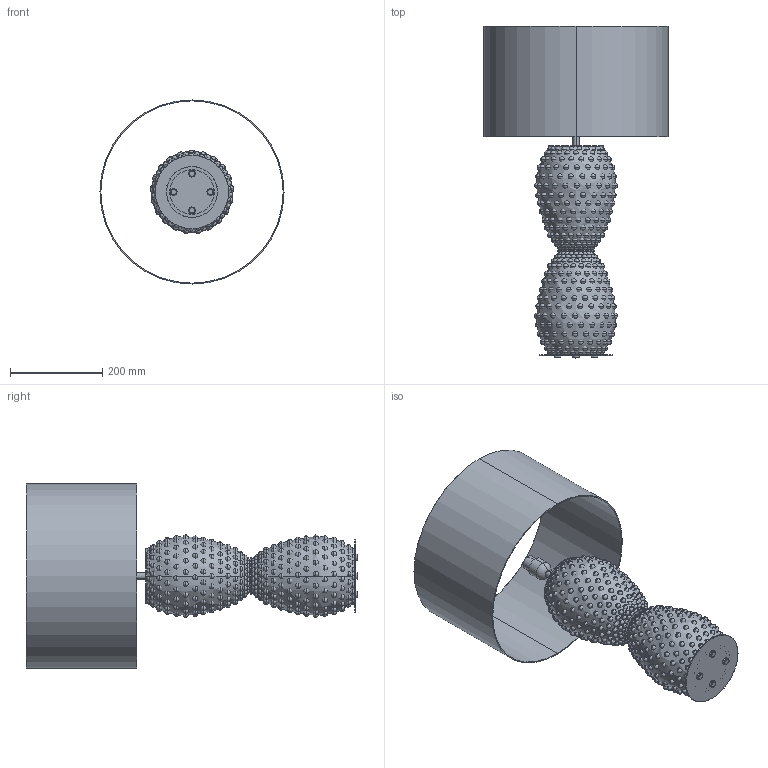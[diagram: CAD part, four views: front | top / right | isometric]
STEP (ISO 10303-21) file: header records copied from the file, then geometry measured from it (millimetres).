
FILE_DESCRIPTION (( 'STEP AP214' ), '1' );
FILE_NAME ('NAC135_2_A_CACTUS.STEP', '2024-02-05T11:52:51', ( '' ), ( '' ), 'SwSTEP 2.0', 'SolidWorks 2018', '' );
FILE_SCHEMA (( 'AUTOMOTIVE_DESIGN' ));
Length unit declared in the file: millimetre
Products named in the file (2): NAC135_2_A_CACTUS
Bounding box: 400 x 721 x 400 mm (x, y, z)
Volume: 2247603.8 mm3; surface area: 1363019.4 mm2
Topology: 640 solids, 640 shells, 1347 faces, 4570 edges, 3248 vertices
Faces by surface type: sphere 1260, torus 26, plane 25, cylinder 20, bspline 8, cone 8
Entity records: 49193 total; most frequent: DIRECTION 5478, CARTESIAN_POINT 5349, ORIENTED_EDGE 2840, AXIS2_PLACEMENT_3D 2725, UNCERTAINTY_MEASURE_WITH_UNIT 1989, SURFACE_SIDE_STYLE 1988, SURFACE_STYLE_FILL_AREA 1988, COLOUR_RGB 1988
